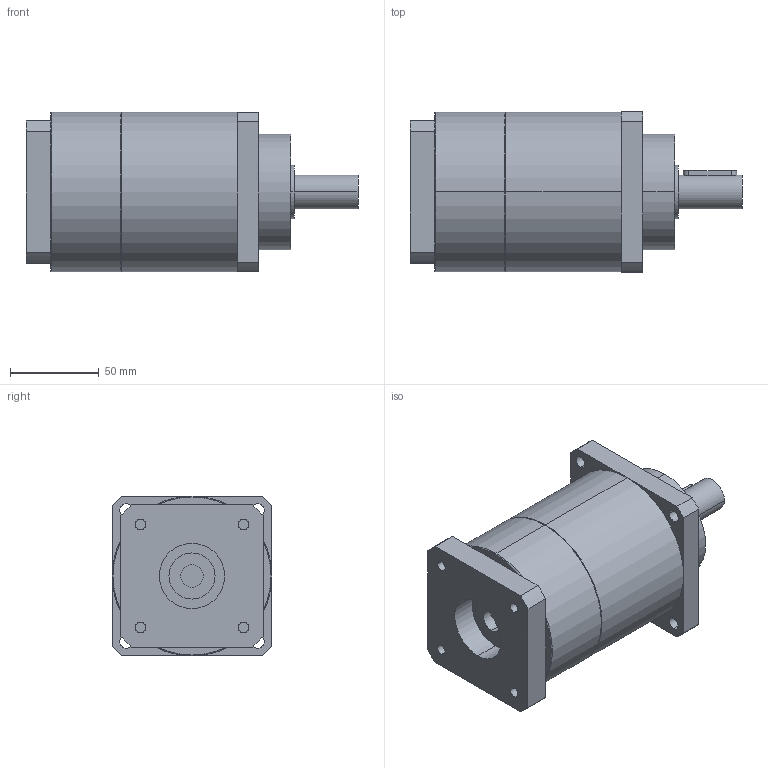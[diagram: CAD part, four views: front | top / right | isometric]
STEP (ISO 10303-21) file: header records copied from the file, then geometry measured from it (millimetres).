
FILE_DESCRIPTION(('CoCreate Modeling STEP Export'),'2;1');
FILE_NAME('GPT90_ig-9-12-16-20-25-28-35-40-50-70-100_19_B5T_12.7_P27.stp','2015-02-04T11:27:52',(''),(''),'CoCreate Modeling STEP processor for AP214 (Solid Model)','CoCreate Modeling 16.00C 25-Feb-2009 (C) Parametric Technology GmbH','');
FILE_SCHEMA(('AUTOMOTIVE_DESIGN { 1 0 10303 214 1 1 1 1 }'));
Length unit declared in the file: millimetre
Products named in the file (2): GPT90_ig-9-12-16-20-25-28-35-40-50-70-100_19_B5T_12.7_P27
Assembly tree (1 placements, depth 2):
  GPT90_ig-9-12-16-20-25-28-35-40-50-70-100_19_B5T_12.7_P27
    GPT90_ig-9-12-16-20-25-28-35-40-50-70-100_19_B5T_12.7_P27
Bounding box: 187 x 90 x 90 mm (x, y, z)
Volume: 903301.8 mm3; surface area: 67086.9 mm2
Topology: 1 solids, 1 shells, 85 faces, 213 edges, 142 vertices
Faces by surface type: cylinder 44, plane 37, cone 4
Entity records: 2624 total; most frequent: CARTESIAN_POINT 742, ORIENTED_EDGE 426, DIRECTION 320, EDGE_CURVE 213, VERTEX_POINT 142, AXIS2_PLACEMENT_3D 117, EDGE_LOOP 105, VECTOR 86
